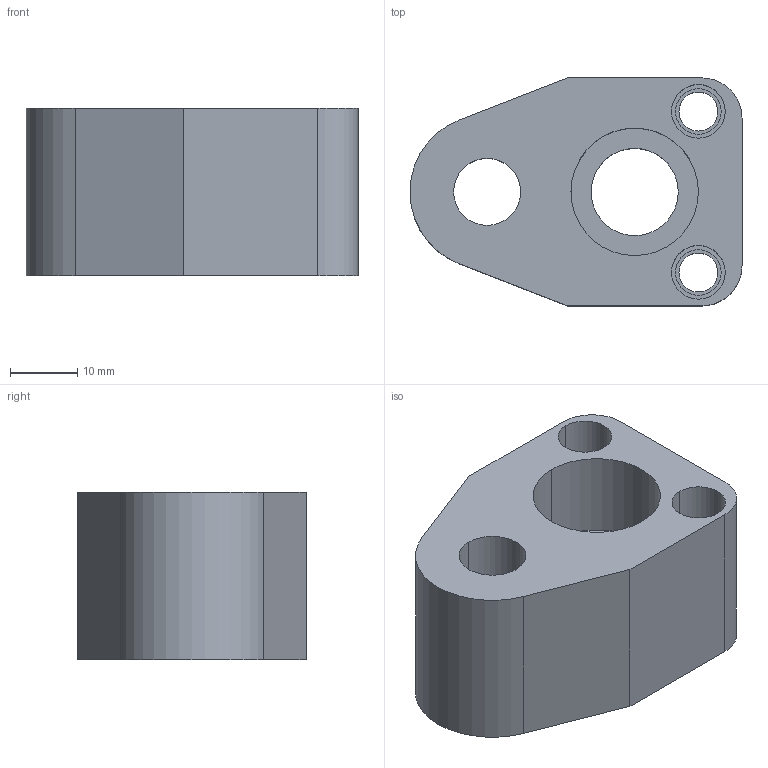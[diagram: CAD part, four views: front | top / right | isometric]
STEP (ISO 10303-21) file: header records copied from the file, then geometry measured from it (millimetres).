
FILE_DESCRIPTION(/* description */ (''),/* implementation_level */ '2;1');
FILE_NAME(/* name */ '3d_tp-asn10_05674_r00.stp',/* time_stamp */ '2011-01-10T14:09:00+09:00',/* author */ ('MISUMI'),/* organization */ (''),/* preprocessor_version */ 'ST-DEVELOPER v11',/* originating_system */ 'UGS - NX 5.0',/* authorisation */ '');
FILE_SCHEMA (('CONFIG_CONTROL_DESIGN'));
Length unit declared in the file: millimetre
Products named in the file (1): 3d_tp-asn10_05674_r00
Bounding box: 49.5 x 34 x 25 mm (x, y, z)
Volume: 26198.2 mm3; surface area: 9118.8 mm2
Topology: 1 solids, 1 shells, 38 faces, 88 edges, 58 vertices
Faces by surface type: cylinder 23, plane 13, cone 2
Entity records: 1206 total; most frequent: DIRECTION 214, CARTESIAN_POINT 185, ORIENTED_EDGE 176, EDGE_CURVE 88, AXIS2_PLACEMENT_3D 87, VERTEX_POINT 58, EDGE_LOOP 52, CIRCLE 48
